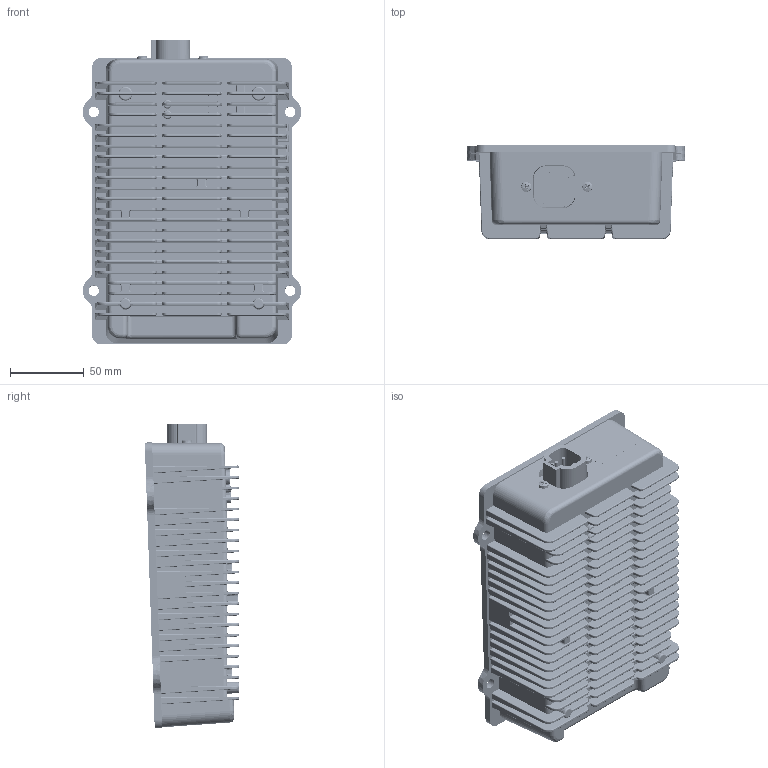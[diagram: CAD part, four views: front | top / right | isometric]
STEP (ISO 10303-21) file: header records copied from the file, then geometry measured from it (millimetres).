
FILE_DESCRIPTION (( 'STEP AP214' ), '1' );
FILE_NAME ('step file.STEP', '2025-10-07T19:06:04', ( '' ), ( '' ), 'SwSTEP 2.0', 'SolidWorks 2023', '' );
FILE_SCHEMA (( 'AUTOMOTIVE_DESIGN' ));
Length unit declared in the file: inch
Products named in the file (12): DTP13-4P base.stp; step file; DEUT DTP13-4P.stp; LBM-SERIAL-01-R3; DTP13-4P.stp; PL-6-19X625SSPPU; GAS-DEUT DTP13-4P; CTP-12019-01-R3; MS-M5CX12SSPFU; DEUT DTP13-4P(Ng); CTP-12019-02-R1; LBM-AX0081580-01-R1
Assembly tree (18 placements, depth 4):
  step file
    LBM-SERIAL-01-R3  x2
    DEUT DTP13-4P(Ng)
      DEUT DTP13-4P.stp
        DTP13-4P.stp
        DTP13-4P base.stp
    GAS-DEUT DTP13-4P
    CTP-12019-01-R3
    CTP-12019-02-R1
    MS-M5CX12SSPFU  x6
    LBM-AX0081580-01-R1
    PL-6-19X625SSPPU  x2
Bounding box: 147.93 x 63.95 x 206.42 mm (x, y, z)
Volume: 453506.6 mm3; surface area: 249447.3 mm2
Topology: 23 solids, 24 shells, 4991 faces, 13277 edges, 8332 vertices
Faces by surface type: cylinder 2720, plane 950, bspline 863, cone 296, torus 148, sphere 14
Entity records: 204107 total; most frequent: CARTESIAN_POINT 104099, ORIENTED_EDGE 23214, DIRECTION 13936, EDGE_CURVE 11607, VERTEX_POINT 7279, B_SPLINE_CURVE_WITH_KNOTS 4832, VECTOR 4802, LINE 4802
